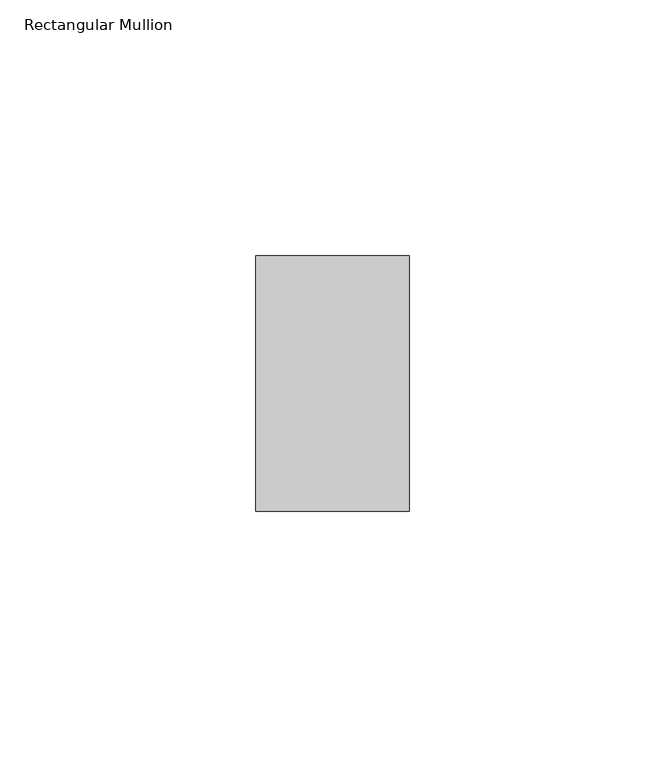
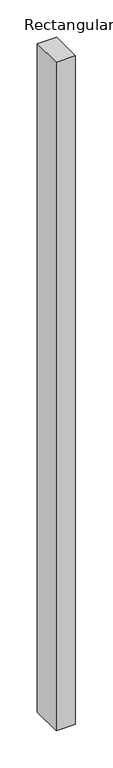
"""IFC4 building model written with IfcOpenShell, lengths in millimetres: member geometry, Rectangular Mullion : ARQ_TV_MULL_50x30mm."""

import ifcopenshell
import ifcopenshell.guid

model = None  # the IFC model being written
_history = None  # IfcOwnerHistory: only IFC2X3 demands one
_inside = {}  # id of a spatial element -> (the spatial element, [elements in it])
_under = {}  # id of a project, library or spatial element -> (it, [spatial elements below it])
_declared = {}  # id of a project -> (the project, [libraries it declares])
_typed = {}  # id of a type object -> (the type object, [elements of that type])
_made_of = {}  # id of a material, layer set ... -> (it, [elements and type objects made of it])


def new_model(schema):
    """Start an empty IFC model of exactly this schema.

    Asked for "IFC4X3", IfcOpenShell would pick the latest addendum, in which some entities
    have other attributes; the version numbers below select the first issue.
    IFC2X3 requires an IfcOwnerHistory on every rooted entity: one is made here for all.
    """
    global model, _history
    if schema == "IFC4X3":
        model = ifcopenshell.file(schema_version=(4, 3, 0, 0))
    else:
        model = ifcopenshell.file(schema=schema)
    _inside.clear()
    _under.clear()
    _declared.clear()
    _typed.clear()
    _made_of.clear()
    _history = None
    if model.schema == "IFC2X3":
        org = make("IfcOrganization", Name="unknown")
        user = make(
            "IfcPersonAndOrganization",
            ThePerson=make("IfcPerson", FamilyName="unknown"),
            TheOrganization=org,
        )
        app = make(
            "IfcApplication",
            ApplicationDeveloper=org,
            Version="unknown",
            ApplicationFullName="unknown",
            ApplicationIdentifier="unknown",
        )
        _history = make(
            "IfcOwnerHistory",
            OwningUser=user,
            OwningApplication=app,
            ChangeAction="ADDED",
            CreationDate=0,
        )
    return model


def make(cls, **values):
    """One entity of the class cls with the attributes given. An attribute that is None is left unset."""
    return model.create_entity(
        cls, **{name: value for name, value in values.items() if value is not None}
    )


def rooted(cls, **values):
    """An entity with a GlobalId (a new one), such as an element, a storey or a relation."""
    return make(cls, GlobalId=ifcopenshell.guid.new(), OwnerHistory=_history, **values)


def si_unit(unit_type, name, prefix=None):
    """IfcSIUnit, for example si_unit("LENGTHUNIT", "METRE", prefix="MILLI")."""
    return make("IfcSIUnit", UnitType=unit_type, Prefix=prefix, Name=name)


def assignment(units):
    """IfcUnitAssignment: the units of a project."""
    return None if units is None else make("IfcUnitAssignment", Units=units)


def point(xyz):
    """IfcCartesianPoint."""
    return None if xyz is None else make("IfcCartesianPoint", Coordinates=xyz)


def direction(xyz):
    """IfcDirection."""
    return None if xyz is None else make("IfcDirection", DirectionRatios=xyz)


def frame(location, z_axis=None, x_axis=None):
    """IfcAxis2Placement3D, a coordinate frame: its origin and axes. An axis left out is left unset."""
    return make(
        "IfcAxis2Placement3D",
        Location=point(location),
        Axis=direction(z_axis),
        RefDirection=direction(x_axis),
    )


def origin():
    """The frame at (0, 0, 0) with its axes left unset."""
    return frame((0.0, 0.0, 0.0))


def place(relative_to, where):
    """IfcLocalPlacement: puts the frame where relative to a parent placement (None: the world)."""
    return make(
        "IfcLocalPlacement", PlacementRelTo=relative_to, RelativePlacement=where
    )


def context(
    kind, dimensions, precision=None, world=None, true_north=None, identifier=None
):
    """IfcGeometricRepresentationContext, for example the 3D "Model" context."""
    return make(
        "IfcGeometricRepresentationContext",
        ContextIdentifier=identifier,
        ContextType=kind,
        CoordinateSpaceDimension=dimensions,
        Precision=precision,
        WorldCoordinateSystem=world,
        TrueNorth=true_north,
    )


def project(units=None, contexts=None):
    """IfcProject with its units and contexts."""
    return rooted(
        "IfcProject",
        Name="project",
        RepresentationContexts=contexts,
        UnitsInContext=assignment(units),
    )


def spatial(cls, under=None, at=None, **own):
    """A site, building, storey or space (cls), placed at a placement, below another one or the project."""
    s = rooted(cls, ObjectPlacement=at, **own)
    if under is not None:
        _under.setdefault(under.id(), (under, []))[1].append(s)
    return s


def polyline(points):
    """IfcPolyline through the points."""
    return make("IfcPolyline", Points=[point(p) for p in points])


def outline(outer, holes=None, kind="AREA"):
    """IfcArbitraryClosedProfileDef: a profile drawn as a closed curve; with holes, ...WithVoids."""
    if holes is None:
        return make("IfcArbitraryClosedProfileDef", ProfileType=kind, OuterCurve=outer)
    return make(
        "IfcArbitraryProfileDefWithVoids",
        ProfileType=kind,
        OuterCurve=outer,
        InnerCurves=holes,
    )


def extrude(swept, where, along, depth):
    """IfcExtrudedAreaSolid: the profile swept, set in the frame where, extruded along a direction by depth."""
    return make(
        "IfcExtrudedAreaSolid",
        SweptArea=swept,
        Position=where,
        ExtrudedDirection=direction(along),
        Depth=depth,
    )


def shape(context_of_items, identifier, shape_type, items):
    """IfcShapeRepresentation: the items that make up one representation, for example the "Body"."""
    return make(
        "IfcShapeRepresentation",
        ContextOfItems=context_of_items,
        RepresentationIdentifier=identifier,
        RepresentationType=shape_type,
        Items=items,
    )


def source(mapping_origin, context_of_items, identifier, shape_type, items):
    """IfcRepresentationMap: a shape defined once, which mapped items show again and again."""
    return make(
        "IfcRepresentationMap",
        MappingOrigin=mapping_origin,
        MappedRepresentation=shape(context_of_items, identifier, shape_type, items),
    )


def transform(
    local_origin,
    x_axis=None,
    y_axis=None,
    z_axis=None,
    scale=None,
    scale2=None,
    scale3=None,
    uniform=True,
):
    """IfcCartesianTransformationOperator3D, or its non-uniform kind. x_axis, y_axis, z_axis: its Axis1, 2, 3."""
    if uniform:
        return make(
            "IfcCartesianTransformationOperator3D",
            Axis1=direction(x_axis),
            Axis2=direction(y_axis),
            LocalOrigin=point(local_origin),
            Scale=scale,
            Axis3=direction(z_axis),
        )
    return make(
        "IfcCartesianTransformationOperator3DnonUniform",
        Axis1=direction(x_axis),
        Axis2=direction(y_axis),
        LocalOrigin=point(local_origin),
        Scale=scale,
        Axis3=direction(z_axis),
        Scale2=scale2,
        Scale3=scale3,
    )


def mapped(mapping_source, mapping_target):
    """IfcMappedItem: shows the shape of a source again, moved by a transform."""
    return make(
        "IfcMappedItem", MappingSource=mapping_source, MappingTarget=mapping_target
    )


def made_of(thing, what):
    """Note that an element or type object is made of a material, layer set ...; save() writes the relation."""
    if what is not None:
        _made_of.setdefault(what.id(), (what, []))[1].append(thing)
    return thing


def element(
    cls,
    number,
    at=None,
    inside=None,
    cuts=None,
    type_object=None,
    material=None,
    context=None,
    identifier="Body",
    shape_type=None,
    held_by="IfcProductDefinitionShape",
    body=None,
    shapes=None,
    **own,
):
    """One element of the class cls, such as IfcWall. Its Tag is "e" and its number.

    at: its placement. inside: the storey or other place that contains it. cuts: it is an
    opening in that element (IfcRelVoidsElement). A single representation is given by context,
    identifier, shape_type and body (its items); several are given by shapes. held_by: the class
    of the entity that holds the representations. save() writes the other relations.
    """
    e = rooted(cls, Tag="e%d" % number, ObjectPlacement=at, **own)
    if body is not None:
        shapes = [shape(context, identifier, shape_type, body)]
    if shapes is not None:
        e.Representation = make(held_by, Representations=shapes)
    if inside is not None:
        _inside.setdefault(inside.id(), (inside, []))[1].append(e)
    if cuts is not None:
        rooted(
            "IfcRelVoidsElement", RelatingBuildingElement=cuts, RelatedOpeningElement=e
        )
    if type_object is not None:
        _typed.setdefault(type_object.id(), (type_object, []))[1].append(e)
    return made_of(e, material)


def aggregate(whole, parts):
    """IfcRelAggregates: a whole, such as a stair, and the parts it consists of."""
    return rooted("IfcRelAggregates", RelatingObject=whole, RelatedObjects=parts)


def save(model, path):
    """Write the relations noted so far, then the file.

    IfcRelAggregates (storeys below a building ...), IfcRelContainedInSpatialStructure (elements
    in a storey), IfcRelDefinesByType, IfcRelAssociatesMaterial and IfcRelDeclares: one each for
    every whole, place, type object, material and project.
    """
    for whole, parts in _under.values():
        aggregate(whole, parts)
    for where, things in _inside.values():
        rooted(
            "IfcRelContainedInSpatialStructure",
            RelatedElements=things,
            RelatingStructure=where,
        )
    for kind, things in _typed.values():
        rooted("IfcRelDefinesByType", RelatedObjects=things, RelatingType=kind)
    for what, things in _made_of.values():
        rooted("IfcRelAssociatesMaterial", RelatedObjects=things, RelatingMaterial=what)
    for by, libraries in _declared.values():
        rooted("IfcRelDeclares", RelatingContext=by, RelatedDefinitions=libraries)
    model.write(path)


def rectangular_mullion_3b31ee1e(model_context):
    return source(origin(), model_context, "Body", "SweptSolid", [
        extrude(outline(polyline([(0.0, 25.0), (0.0, -25.0), (-30.0, -25.0), (-30.0, 25.0), (0.0, 25.0)])), frame((0.0, 0.0, -1091.247727), z_axis=(0.0, 0.0, 1.0), x_axis=(1.0, 0.0, 0.0)), (0.0, 0.0, 1.0), 1091.247727),
    ])


if __name__ == "__main__":
    model = new_model("IFC4")
    model_context = context("Model", 3, world=origin())
    ifc_project = project(units=[si_unit("LENGTHUNIT", "METRE", prefix="MILLI")], contexts=[model_context])
    site = spatial("IfcSite", under=ifc_project)
    building = spatial("IfcBuilding", under=site)
    placement = place(None, origin())
    rectangular_mullion_shape = rectangular_mullion_3b31ee1e(model_context)
    element("IfcMember", 1, ObjectType="Rectangular Mullion : ARQ_TV_MULL_50x30mm", at=placement, inside=building, context=model_context, shape_type="MappedRepresentation", body=[
        mapped(rectangular_mullion_shape, transform((0.0, 0.0, 0.0), x_axis=(1.0, 0.0, 0.0), y_axis=(0.0, 1.0, 0.0), z_axis=(0.0, 0.0, 1.0))),
    ])
    save(model, "model.ifc")
